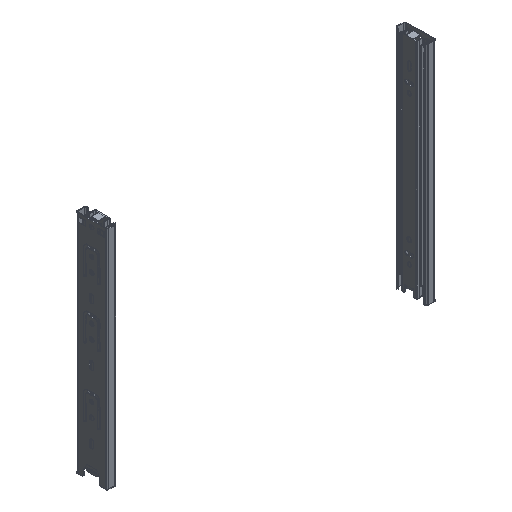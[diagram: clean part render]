
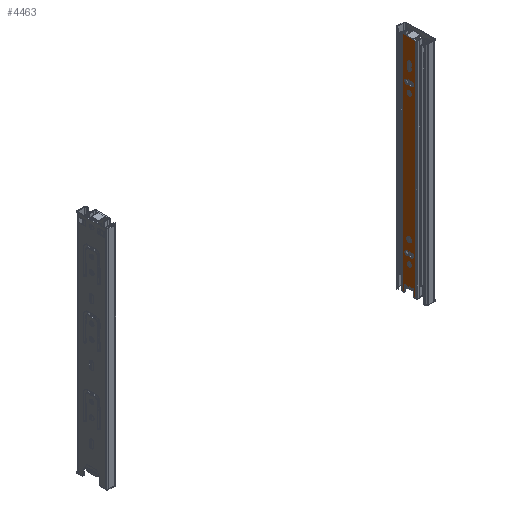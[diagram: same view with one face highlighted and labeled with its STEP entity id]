
A CAD part, isometric view. The second image highlights one B-rep face of the part: STEP entity #4463.
In plain terms, the highlighted planar face has unit normal (-1, 0, 0) as drawn and (1, 0, 0) by its records, which use the part's own axes.
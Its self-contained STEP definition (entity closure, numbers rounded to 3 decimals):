
#105=FACE_BOUND('',#660,.T.);
#106=FACE_BOUND('',#661,.T.);
#107=FACE_BOUND('',#662,.T.);
#108=FACE_BOUND('',#663,.T.);
#109=FACE_BOUND('',#664,.T.);
#110=FACE_BOUND('',#665,.T.);
#208=PLANE('',#4844);
#397=FACE_OUTER_BOUND('',#659,.T.);
#659=EDGE_LOOP('',(#3693,#3694,#3695,#3696,#3697,#3698,#3699,#3700,#3701,
#3702,#3703,#3704));
#660=EDGE_LOOP('',(#3705));
#661=EDGE_LOOP('',(#3706));
#662=EDGE_LOOP('',(#3707,#3708,#3709,#3710));
#663=EDGE_LOOP('',(#3711,#3712,#3713,#3714));
#664=EDGE_LOOP('',(#3715));
#665=EDGE_LOOP('',(#3716,#3717,#3718,#3719));
#1020=LINE('',#7133,#1422);
#1024=LINE('',#7143,#1426);
#1028=LINE('',#7157,#1430);
#1032=LINE('',#7167,#1434);
#1036=LINE('',#7186,#1438);
#1040=LINE('',#7196,#1442);
#1043=LINE('',#7208,#1445);
#1046=LINE('',#7214,#1448);
#1047=LINE('',#7216,#1449);
#1048=LINE('',#7218,#1450);
#1049=LINE('',#7220,#1451);
#1050=LINE('',#7222,#1452);
#1051=LINE('',#7226,#1453);
#1052=LINE('',#7230,#1454);
#1422=VECTOR('',#5855,5.);
#1426=VECTOR('',#5867,5.);
#1430=VECTOR('',#5879,5.);
#1434=VECTOR('',#5891,5.);
#1438=VECTOR('',#5909,5.);
#1442=VECTOR('',#5921,5.);
#1445=VECTOR('',#5932,5.8);
#1448=VECTOR('',#5937,1.628);
#1449=VECTOR('',#5938,247.);
#1450=VECTOR('',#5939,14.957);
#1451=VECTOR('',#5940,247.);
#1452=VECTOR('',#5941,1.628);
#1453=VECTOR('',#5944,5.8);
#1454=VECTOR('',#5947,7.7);
#1664=CIRCLE('',#4809,2.5);
#1666=CIRCLE('',#4812,2.25);
#1668=CIRCLE('',#4815,2.25);
#1670=CIRCLE('',#4819,2.25);
#1672=CIRCLE('',#4823,2.25);
#1674=CIRCLE('',#4827,2.25);
#1676=CIRCLE('',#4831,2.25);
#1678=CIRCLE('',#4834,2.25);
#1680=CIRCLE('',#4838,2.25);
#1682=CIRCLE('',#4842,1.);
#1683=CIRCLE('',#4845,1.);
#1684=CIRCLE('',#4846,1.);
#1685=CIRCLE('',#4847,1.);
#2028=VERTEX_POINT('',#7113);
#2030=VERTEX_POINT('',#7118);
#2033=VERTEX_POINT('',#7124);
#2034=VERTEX_POINT('',#7126);
#2036=VERTEX_POINT('',#7132);
#2038=VERTEX_POINT('',#7138);
#2041=VERTEX_POINT('',#7148);
#2042=VERTEX_POINT('',#7150);
#2044=VERTEX_POINT('',#7156);
#2046=VERTEX_POINT('',#7162);
#2048=VERTEX_POINT('',#7171);
#2051=VERTEX_POINT('',#7177);
#2052=VERTEX_POINT('',#7179);
#2054=VERTEX_POINT('',#7185);
#2056=VERTEX_POINT('',#7191);
#2059=VERTEX_POINT('',#7201);
#2060=VERTEX_POINT('',#7203);
#2061=VERTEX_POINT('',#7207);
#2063=VERTEX_POINT('',#7213);
#2064=VERTEX_POINT('',#7215);
#2065=VERTEX_POINT('',#7217);
#2066=VERTEX_POINT('',#7219);
#2067=VERTEX_POINT('',#7221);
#2068=VERTEX_POINT('',#7223);
#2069=VERTEX_POINT('',#7225);
#2070=VERTEX_POINT('',#7227);
#2071=VERTEX_POINT('',#7229);
#2584=EDGE_CURVE('',#2028,#2028,#1664,.T.);
#2586=EDGE_CURVE('',#2030,#2030,#1666,.T.);
#2589=EDGE_CURVE('',#2034,#2033,#1668,.T.);
#2592=EDGE_CURVE('',#2036,#2034,#1020,.T.);
#2595=EDGE_CURVE('',#2038,#2036,#1670,.T.);
#2598=EDGE_CURVE('',#2033,#2038,#1024,.T.);
#2601=EDGE_CURVE('',#2042,#2041,#1672,.T.);
#2604=EDGE_CURVE('',#2044,#2042,#1028,.T.);
#2607=EDGE_CURVE('',#2046,#2044,#1674,.T.);
#2610=EDGE_CURVE('',#2041,#2046,#1032,.T.);
#2612=EDGE_CURVE('',#2048,#2048,#1676,.T.);
#2615=EDGE_CURVE('',#2052,#2051,#1678,.T.);
#2618=EDGE_CURVE('',#2054,#2052,#1036,.T.);
#2621=EDGE_CURVE('',#2056,#2054,#1680,.T.);
#2624=EDGE_CURVE('',#2051,#2056,#1040,.T.);
#2627=EDGE_CURVE('',#2059,#2060,#1682,.T.);
#2629=EDGE_CURVE('',#2061,#2060,#1043,.T.);
#2632=EDGE_CURVE('',#2063,#2059,#1046,.T.);
#2633=EDGE_CURVE('',#2063,#2064,#1047,.T.);
#2634=EDGE_CURVE('',#2065,#2064,#1048,.T.);
#2635=EDGE_CURVE('',#2065,#2066,#1049,.T.);
#2636=EDGE_CURVE('',#2067,#2066,#1050,.T.);
#2637=EDGE_CURVE('',#2068,#2067,#1683,.T.);
#2638=EDGE_CURVE('',#2068,#2069,#1051,.T.);
#2639=EDGE_CURVE('',#2070,#2069,#1684,.T.);
#2640=EDGE_CURVE('',#2070,#2071,#1052,.T.);
#2641=EDGE_CURVE('',#2061,#2071,#1685,.T.);
#3693=ORIENTED_EDGE('',*,*,#2627,.F.);
#3694=ORIENTED_EDGE('',*,*,#2632,.F.);
#3695=ORIENTED_EDGE('',*,*,#2633,.T.);
#3696=ORIENTED_EDGE('',*,*,#2634,.F.);
#3697=ORIENTED_EDGE('',*,*,#2635,.T.);
#3698=ORIENTED_EDGE('',*,*,#2636,.F.);
#3699=ORIENTED_EDGE('',*,*,#2637,.F.);
#3700=ORIENTED_EDGE('',*,*,#2638,.T.);
#3701=ORIENTED_EDGE('',*,*,#2639,.F.);
#3702=ORIENTED_EDGE('',*,*,#2640,.T.);
#3703=ORIENTED_EDGE('',*,*,#2641,.F.);
#3704=ORIENTED_EDGE('',*,*,#2629,.T.);
#3705=ORIENTED_EDGE('',*,*,#2584,.T.);
#3706=ORIENTED_EDGE('',*,*,#2586,.T.);
#3707=ORIENTED_EDGE('',*,*,#2595,.T.);
#3708=ORIENTED_EDGE('',*,*,#2592,.T.);
#3709=ORIENTED_EDGE('',*,*,#2589,.T.);
#3710=ORIENTED_EDGE('',*,*,#2598,.T.);
#3711=ORIENTED_EDGE('',*,*,#2607,.T.);
#3712=ORIENTED_EDGE('',*,*,#2604,.T.);
#3713=ORIENTED_EDGE('',*,*,#2601,.T.);
#3714=ORIENTED_EDGE('',*,*,#2610,.T.);
#3715=ORIENTED_EDGE('',*,*,#2612,.T.);
#3716=ORIENTED_EDGE('',*,*,#2621,.T.);
#3717=ORIENTED_EDGE('',*,*,#2618,.T.);
#3718=ORIENTED_EDGE('',*,*,#2615,.T.);
#3719=ORIENTED_EDGE('',*,*,#2624,.T.);
#4463=ADVANCED_FACE('',(#397,#105,#106,#107,#108,#109,#110),#208,.T.);
#4809=AXIS2_PLACEMENT_3D('',#7114,#5836,#5837);
#4812=AXIS2_PLACEMENT_3D('',#7119,#5842,#5843);
#4815=AXIS2_PLACEMENT_3D('',#7127,#5849,#5850);
#4819=AXIS2_PLACEMENT_3D('',#7139,#5861,#5862);
#4823=AXIS2_PLACEMENT_3D('',#7151,#5873,#5874);
#4827=AXIS2_PLACEMENT_3D('',#7163,#5885,#5886);
#4831=AXIS2_PLACEMENT_3D('',#7172,#5896,#5897);
#4834=AXIS2_PLACEMENT_3D('',#7180,#5903,#5904);
#4838=AXIS2_PLACEMENT_3D('',#7192,#5915,#5916);
#4842=AXIS2_PLACEMENT_3D('',#7204,#5927,#5928);
#4844=AXIS2_PLACEMENT_3D('',#7212,#5935,#5936);
#4845=AXIS2_PLACEMENT_3D('',#7224,#5942,#5943);
#4846=AXIS2_PLACEMENT_3D('',#7228,#5945,#5946);
#4847=AXIS2_PLACEMENT_3D('',#7231,#5948,#5949);
#5836=DIRECTION('center_axis',(-1.,0.,0.));
#5837=DIRECTION('ref_axis',(0.,0.,1.));
#5842=DIRECTION('center_axis',(-1.,0.,0.));
#5843=DIRECTION('ref_axis',(0.,0.,1.));
#5849=DIRECTION('center_axis',(-1.,0.,0.));
#5850=DIRECTION('ref_axis',(0.,0.,-1.));
#5855=DIRECTION('',(0.,1.,0.));
#5861=DIRECTION('center_axis',(-1.,0.,0.));
#5862=DIRECTION('ref_axis',(0.,0.,1.));
#5867=DIRECTION('',(0.,-1.,0.));
#5873=DIRECTION('center_axis',(-1.,0.,0.));
#5874=DIRECTION('ref_axis',(0.,1.,0.));
#5879=DIRECTION('',(0.,0.,1.));
#5885=DIRECTION('center_axis',(-1.,0.,0.));
#5886=DIRECTION('ref_axis',(0.,-1.,0.));
#5891=DIRECTION('',(0.,0.,-1.));
#5896=DIRECTION('center_axis',(-1.,0.,0.));
#5897=DIRECTION('ref_axis',(0.,0.,1.));
#5903=DIRECTION('center_axis',(-1.,0.,0.));
#5904=DIRECTION('ref_axis',(0.,0.,-1.));
#5909=DIRECTION('',(0.,1.,0.));
#5915=DIRECTION('center_axis',(-1.,0.,0.));
#5916=DIRECTION('ref_axis',(0.,0.,1.));
#5921=DIRECTION('',(0.,-1.,0.));
#5927=DIRECTION('center_axis',(-1.,0.,0.));
#5928=DIRECTION('ref_axis',(0.,-0.707,-0.707));
#5932=DIRECTION('',(0.,0.,-1.));
#5935=DIRECTION('center_axis',(1.,0.,0.));
#5936=DIRECTION('ref_axis',(0.,-1.,0.));
#5937=DIRECTION('',(0.,-1.,0.));
#5938=DIRECTION('',(0.,0.,1.));
#5939=DIRECTION('',(0.,1.,0.));
#5940=DIRECTION('',(0.,0.,-1.));
#5941=DIRECTION('',(0.,-1.,0.));
#5942=DIRECTION('center_axis',(-1.,0.,0.));
#5943=DIRECTION('ref_axis',(0.,0.707,-0.707));
#5944=DIRECTION('',(0.,0.,1.));
#5945=DIRECTION('center_axis',(1.,0.,0.));
#5946=DIRECTION('ref_axis',(0.,-0.707,0.707));
#5947=DIRECTION('',(0.,1.,0.));
#5948=DIRECTION('center_axis',(1.,0.,0.));
#5949=DIRECTION('ref_axis',(0.,0.707,0.707));
#7113=CARTESIAN_POINT('',(0.,0.,-196.5));
#7114=CARTESIAN_POINT('Origin',(0.,0.,
-194.));
#7118=CARTESIAN_POINT('',(0.,0.,-220.25));
#7119=CARTESIAN_POINT('Origin',(0.,0.,
-218.));
#7124=CARTESIAN_POINT('',(0.,2.5,-210.25));
#7126=CARTESIAN_POINT('',(0.,2.5,-205.75));
#7127=CARTESIAN_POINT('Origin',(0.,2.5,-208.));
#7132=CARTESIAN_POINT('',(0.,-2.5,-205.75));
#7133=CARTESIAN_POINT('',(0.,2.807,-205.75));
#7138=CARTESIAN_POINT('',(0.,-2.5,-210.25));
#7139=CARTESIAN_POINT('Origin',(0.,-2.5,-208.));
#7143=CARTESIAN_POINT('',(0.,5.307,-210.25));
#7148=CARTESIAN_POINT('',(0.,2.25,-25.5));
#7150=CARTESIAN_POINT('',(0.,-2.25,-25.5));
#7151=CARTESIAN_POINT('Origin',(0.,0.,
-25.5));
#7156=CARTESIAN_POINT('',(0.,-2.25,-30.5));
#7157=CARTESIAN_POINT('',(0.,-2.25,-15.25));
#7162=CARTESIAN_POINT('',(0.,2.25,-30.5));
#7163=CARTESIAN_POINT('Origin',(0.,0.,
-30.5));
#7167=CARTESIAN_POINT('',(0.,2.25,-12.75));
#7171=CARTESIAN_POINT('',(0.,0.,-56.25));
#7172=CARTESIAN_POINT('Origin',(0.,0.,-54.));
#7177=CARTESIAN_POINT('',(0.,2.5,-46.25));
#7179=CARTESIAN_POINT('',(0.,2.5,-41.75));
#7180=CARTESIAN_POINT('Origin',(0.,2.5,-44.));
#7185=CARTESIAN_POINT('',(0.,-2.5,-41.75));
#7186=CARTESIAN_POINT('',(0.,2.807,-41.75));
#7191=CARTESIAN_POINT('',(0.,-2.5,-46.25));
#7192=CARTESIAN_POINT('Origin',(0.,-2.5,-44.));
#7196=CARTESIAN_POINT('',(0.,5.307,-46.25));
#7201=CARTESIAN_POINT('',(0.,5.85,-247.));
#7203=CARTESIAN_POINT('',(0.,4.85,-246.));
#7204=CARTESIAN_POINT('Origin',(0.,5.85,-246.));
#7207=CARTESIAN_POINT('',(0.,4.85,-240.2));
#7208=CARTESIAN_POINT('',(0.,4.85,-119.6));
#7212=CARTESIAN_POINT('Origin',(0.,8.114,0.));
#7213=CARTESIAN_POINT('',(0.,7.478,-247.));
#7214=CARTESIAN_POINT('',(0.,-8.114,-247.));
#7215=CARTESIAN_POINT('',(0.,7.478,0.));
#7216=CARTESIAN_POINT('',(0.,7.478,0.));
#7217=CARTESIAN_POINT('',(0.,-7.478,0.));
#7218=CARTESIAN_POINT('',(0.,-8.114,0.));
#7219=CARTESIAN_POINT('',(0.,-7.478,-247.));
#7220=CARTESIAN_POINT('',(0.,-7.478,0.));
#7221=CARTESIAN_POINT('',(0.,-5.85,-247.));
#7222=CARTESIAN_POINT('',(0.,-8.114,-247.));
#7223=CARTESIAN_POINT('',(0.,-4.85,-246.));
#7224=CARTESIAN_POINT('Origin',(0.,-5.85,-246.));
#7225=CARTESIAN_POINT('',(0.,-4.85,-240.2));
#7226=CARTESIAN_POINT('',(0.,-4.85,-123.5));
#7227=CARTESIAN_POINT('',(0.,-3.85,-239.2));
#7228=CARTESIAN_POINT('Origin',(0.,-3.85,-240.2));
#7229=CARTESIAN_POINT('',(0.,3.85,-239.2));
#7230=CARTESIAN_POINT('',(0.,1.632,-239.2));
#7231=CARTESIAN_POINT('Origin',(0.,3.85,-240.2));
